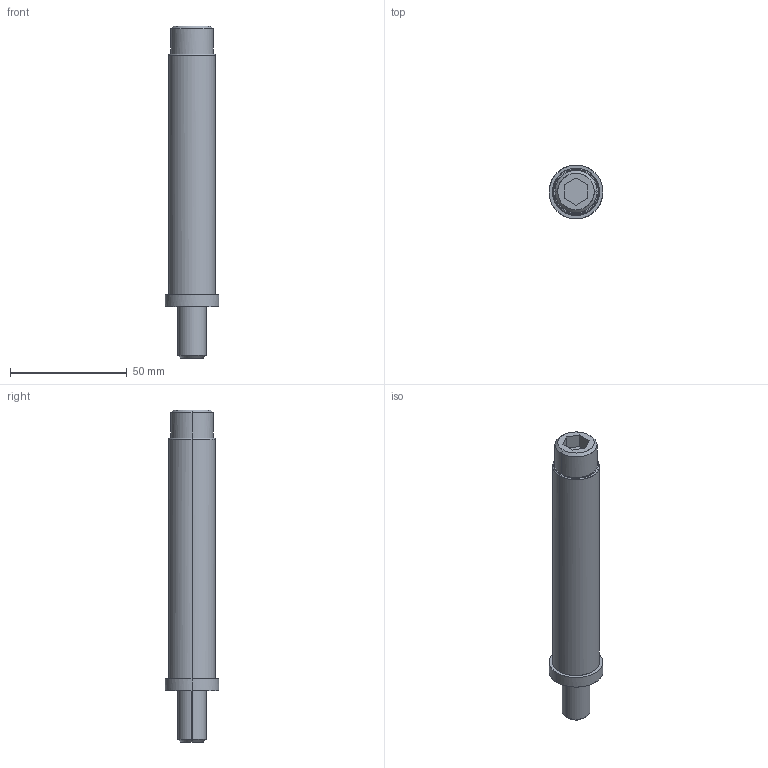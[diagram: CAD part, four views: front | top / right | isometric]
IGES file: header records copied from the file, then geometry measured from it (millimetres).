
Global section: file name: E:\UnigraphicsGraphicData\MISUMI_PRESS-PARTS\IGES\3d_sgc23-120_00799_r00.igs; native system: NX V5.0; preprocessor: UGS NX IGES V5.0; author: MISUMI; date: 20110105.162538; units: millimetre
Bounding box: 23 x 23 x 142 mm (x, y, z)
Surface area: 14510.9 mm2 (no closed solid volume)
Topology: 0 solids, 0 shells, 33 faces, 236 edges, 236 vertices
Faces by surface type: bspline 33
